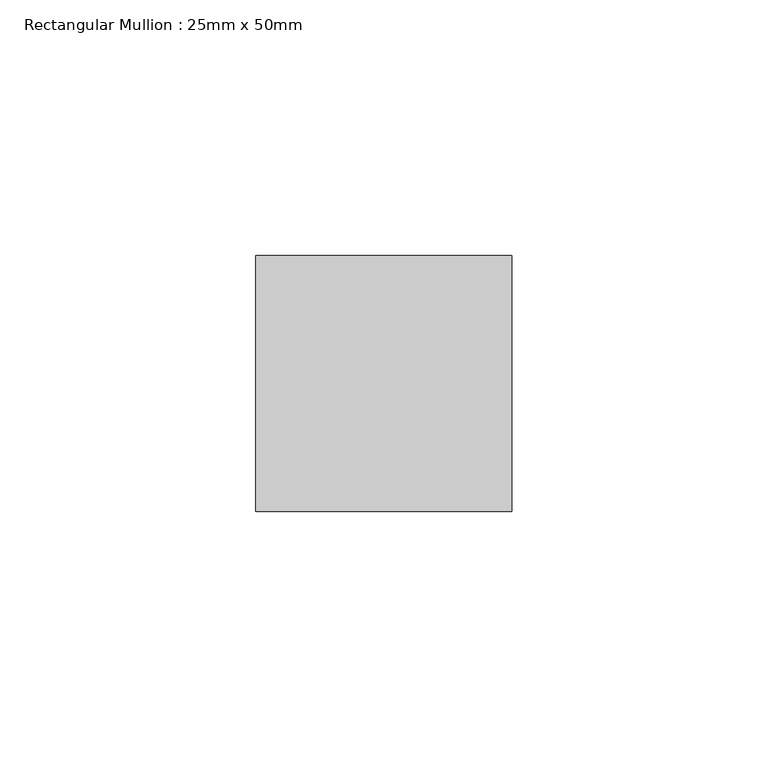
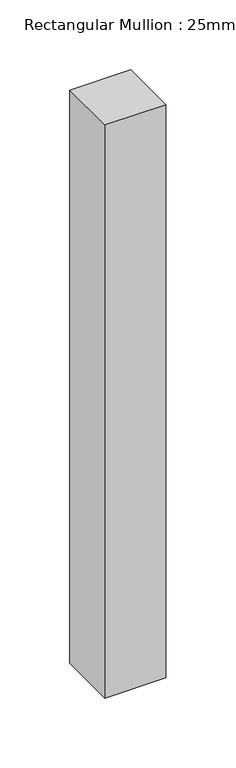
"""IFC4 building model written with IfcOpenShell, lengths in millimetres: member geometry, Rectangular Mullion : 25mm x 50mm."""

from ifc_helpers import new_model, si_unit, frame, origin, place, context, project, spatial, polyline, outline, extrude, source, transform, mapped, element, save


def rectangular_mullion_25mm_x_50mm_09c0c583(model_context):
    return source(origin(), model_context, "Body", "SweptSolid", [
        extrude(outline(polyline([(25.0, 25.0), (25.0, -25.0), (-25.0, -25.0), (-25.0, 25.0), (25.0, 25.0)])), frame((0.0, 0.0, -500.0), z_axis=(0.0, 0.0, 1.0), x_axis=(1.0, 0.0, 0.0)), (0.0, 0.0, 1.0), 500.0),
    ])


if __name__ == "__main__":
    model = new_model("IFC4")
    model_context = context("Model", 3, world=origin())
    ifc_project = project(units=[si_unit("LENGTHUNIT", "METRE", prefix="MILLI")], contexts=[model_context])
    site = spatial("IfcSite", under=ifc_project)
    building = spatial("IfcBuilding", under=site)
    placement = place(None, origin())
    rectangular_mullion_25mm_x_50mm_shape = rectangular_mullion_25mm_x_50mm_09c0c583(model_context)
    element("IfcMember", 1, ObjectType="Rectangular Mullion : 25mm x 50mm", at=placement, inside=building, context=model_context, shape_type="MappedRepresentation", body=[
        mapped(rectangular_mullion_25mm_x_50mm_shape, transform((0.0, 0.0, 0.0), x_axis=(1.0, 0.0, 0.0), y_axis=(0.0, 1.0, 0.0), z_axis=(0.0, 0.0, 1.0))),
    ])
    save(model, "model.ifc")
